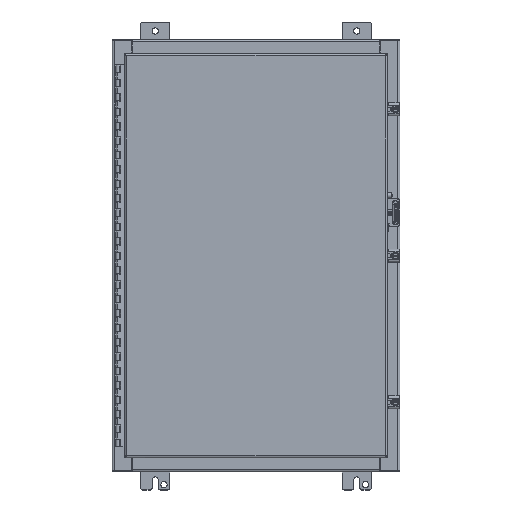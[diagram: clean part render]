
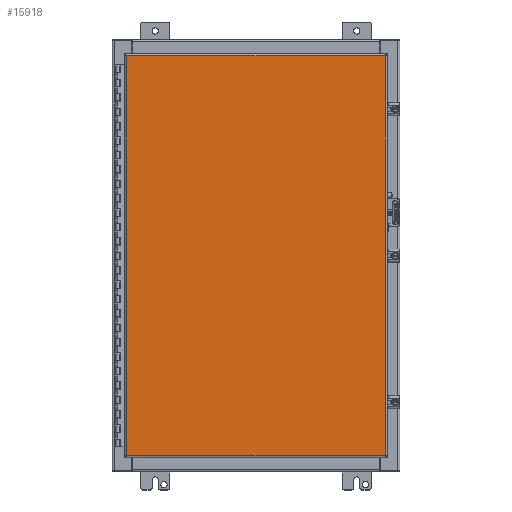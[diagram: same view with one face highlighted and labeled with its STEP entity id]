
A CAD part, top view. The second image highlights one B-rep face of the part: STEP entity #15918.
In plain terms, the highlighted planar face has unit normal (0, 0, 1) as drawn and (0, 1, 0) by its records, which use the part's own axes.
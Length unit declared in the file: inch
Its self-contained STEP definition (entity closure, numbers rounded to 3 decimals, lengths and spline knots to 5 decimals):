
#14311=DIRECTION('',(0.,0.,1.));
#14312=VECTOR('',#14311,17.96);
#14313=CARTESIAN_POINT('',(-13.88638,0.,0.145));
#14314=LINE('',#14313,#14312);
#14365=DIRECTION('',(0.,0.,1.));
#14366=VECTOR('',#14365,17.96);
#14367=CARTESIAN_POINT('',(13.88638,0.,0.145));
#14368=LINE('',#14367,#14366);
#14473=DIRECTION('',(-1.,0.,0.));
#14474=VECTOR('',#14473,27.77275);
#14475=CARTESIAN_POINT('',(13.88638,0.,0.145));
#14476=LINE('',#14475,#14474);
#14977=DIRECTION('',(-1.,0.,0.));
#14978=VECTOR('',#14977,27.77275);
#14979=CARTESIAN_POINT('',(13.88638,0.,18.105));
#14980=LINE('',#14979,#14978);
#15261=CARTESIAN_POINT('',(13.88638,0.,0.145));
#15262=CARTESIAN_POINT('',(-13.88638,0.,0.145));
#15263=VERTEX_POINT('',#15261);
#15264=VERTEX_POINT('',#15262);
#15265=CARTESIAN_POINT('',(13.88638,0.,18.105));
#15266=CARTESIAN_POINT('',(-13.88638,0.,18.105));
#15267=VERTEX_POINT('',#15265);
#15268=VERTEX_POINT('',#15266);
#15904=CARTESIAN_POINT('',(14.03138,0.,0.));
#15905=DIRECTION('',(0.,1.,0.));
#15906=DIRECTION('',(-1.,0.,0.));
#15907=AXIS2_PLACEMENT_3D('',#15904,#15905,#15906);
#15908=PLANE('',#15907);
#15910=ORIENTED_EDGE('',*,*,#15909,.T.);
#15912=ORIENTED_EDGE('',*,*,#15911,.T.);
#15913=ORIENTED_EDGE('',*,*,#15894,.F.);
#15915=ORIENTED_EDGE('',*,*,#15914,.F.);
#15916=EDGE_LOOP('',(#15910,#15912,#15913,#15915));
#15917=FACE_OUTER_BOUND('',#15916,.F.);
#15894=EDGE_CURVE('',#15264,#15268,#14314,.T.);
#15909=EDGE_CURVE('',#15263,#15267,#14368,.T.);
#15911=EDGE_CURVE('',#15267,#15268,#14980,.T.);
#15914=EDGE_CURVE('',#15263,#15264,#14476,.T.);
#15918=ADVANCED_FACE('',(#15917),#15908,.T.);
